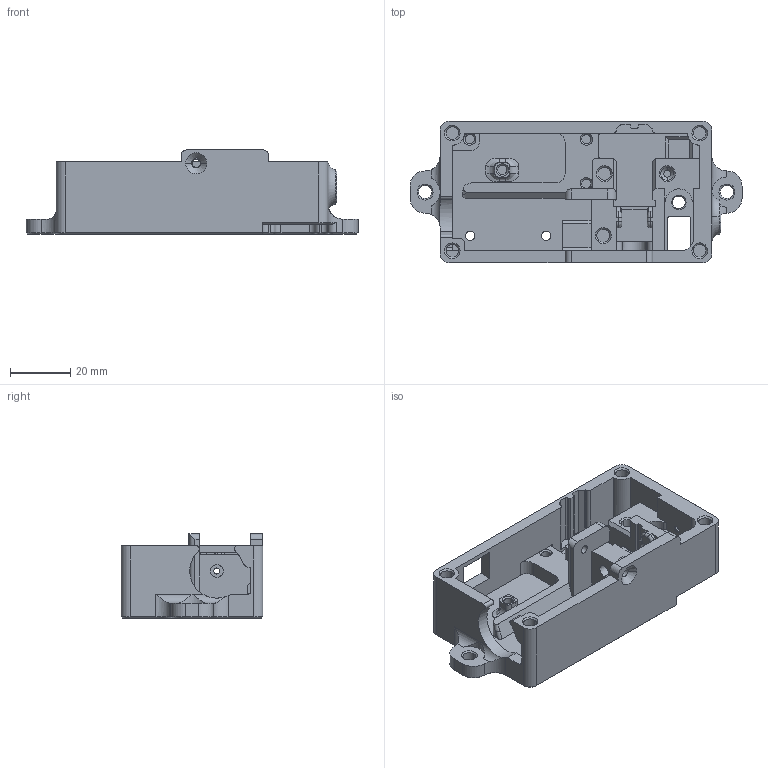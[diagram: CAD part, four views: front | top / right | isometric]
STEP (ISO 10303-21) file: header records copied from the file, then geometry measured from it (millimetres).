
FILE_DESCRIPTION((''),'2;1');
FILE_NAME('_000_9990003','2024-10-21T08:40:32',('Administrator'),(''),'CREO PARAMETRIC BY PTC INC, 2024063','CREO PARAMETRIC BY PTC INC, 2024063','');
FILE_SCHEMA(('CONFIG_CONTROL_DESIGN'));
Length unit declared in the file: millimetre
Products named in the file (1): _000_9990003
Bounding box: 110 x 47 x 28 mm (x, y, z)
Volume: 49674 mm3; surface area: 24302.9 mm2
Topology: 1 solids, 1 shells, 579 faces, 1522 edges, 957 vertices
Faces by surface type: plane 269, cylinder 215, cone 78, bspline 10, torus 7
Entity records: 18897 total; most frequent: CARTESIAN_POINT 4487, ORIENTED_EDGE 3044, DIRECTION 2962, EDGE_CURVE 1522, AXIS2_PLACEMENT_3D 995, VECTOR 972, LINE 972, VERTEX_POINT 957
